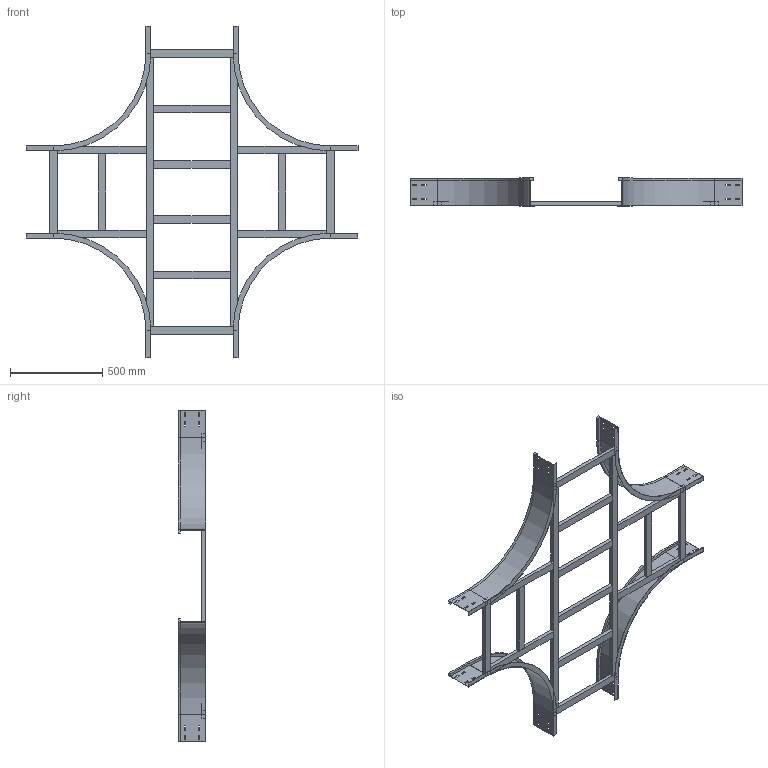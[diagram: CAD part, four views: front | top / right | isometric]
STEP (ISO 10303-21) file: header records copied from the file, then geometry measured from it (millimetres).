
FILE_DESCRIPTION (( 'STEP AP214' ), '1' );
FILE_NAME ('17J5F500.step', '2025-02-21T16:28:45', ( '' ), ( '' ), 'SwSTEP 2.0', 'SolidWorks 2023', '' );
FILE_SCHEMA (( 'AUTOMOTIVE_DESIGN' ));
Length unit declared in the file: millimetre
Products named in the file (7): LONGH.INTERNO 90°_H150_R500; TRAVERSINO_COPPIA_500; TRAVERSINO_500; 17J5F500; TRAVERSINO_VERT_R500; TRAVERSINO_INTERMEDIO_X_R500+500; TRAVERSINO_LONG._R500+500
Assembly tree (20 placements, depth 2):
  17J5F500
    LONGH.INTERNO 90°_H150_R500  x4
    TRAVERSINO_500  x4
    TRAVERSINO_LONG._R500+500  x2
    TRAVERSINO_INTERMEDIO_X_R500+500  x4
    TRAVERSINO_VERT_R500  x4
    TRAVERSINO_COPPIA_500  x2
Bounding box: 1800 x 150 x 1800 mm (x, y, z)
Volume: 9906447.2 mm3; surface area: 2833779.3 mm2
Topology: 20 solids, 20 shells, 328 faces, 800 edges, 512 vertices
Faces by surface type: plane 312, cylinder 16
Entity records: 2860 total; most frequent: CARTESIAN_POINT 459, DIRECTION 442, ORIENTED_EDGE 424, EDGE_CURVE 212, LINE 204, VECTOR 204, VERTEX_POINT 136, AXIS2_PLACEMENT_3D 119
